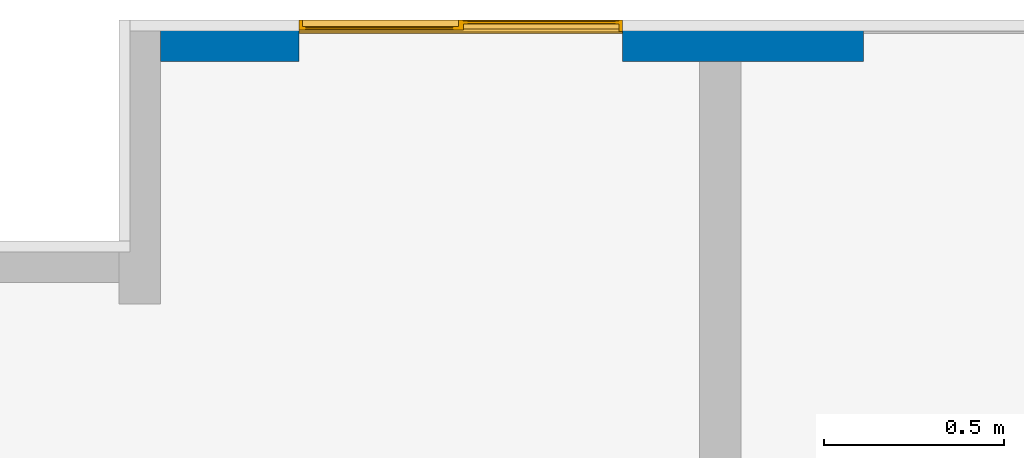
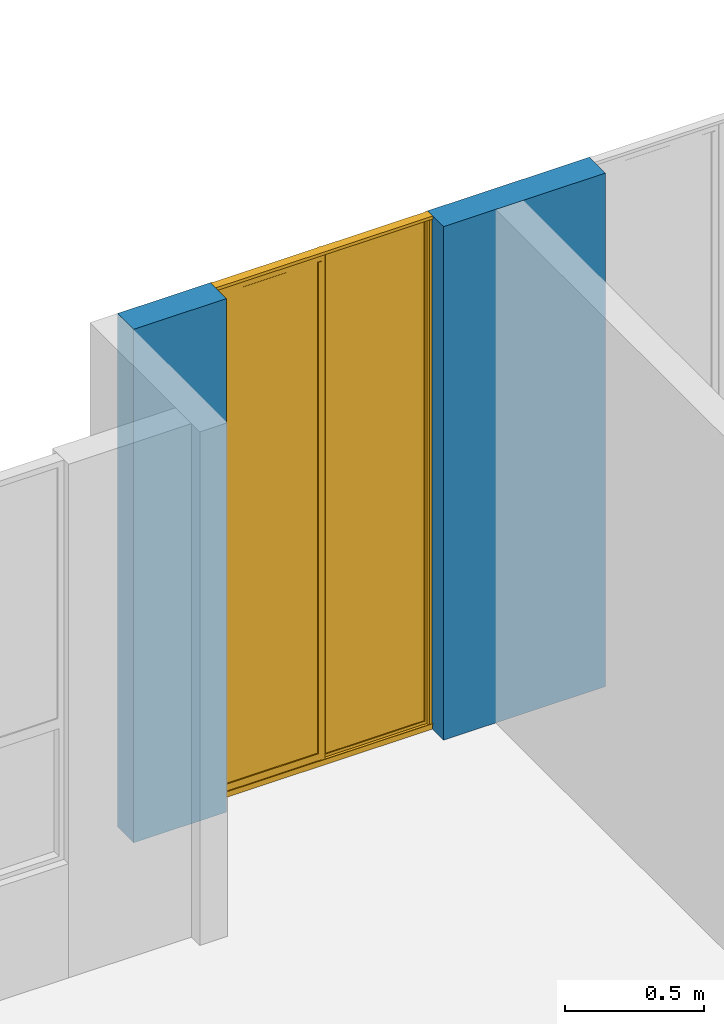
# One storey, part 24 of 48: 1 wall, 1 window, 2 openings.
"""IFC4 building model written with IfcOpenShell, lengths in metres."""

from ifc_helpers import new_model, entity, si_unit, converted_unit, derived_unit, direction, frame, origin, place, context, subcontext, project, spatial, indexed_curve, outline, extrude, polygons, source, transform, mapped, material, constituent, constituent_set, type_object, type_shapes, element, fill, save


model = new_model("IFC4")

# Units and contexts
model_context = context("Model", 3, precision=1e-05, world=origin(), true_north=direction((6.123031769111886e-17, 1.0)))
body_context = subcontext(model_context, "Body", "Model", "MODEL_VIEW")
ifc_project = project(units=[si_unit("LENGTHUNIT", "METRE"), si_unit("AREAUNIT", "SQUARE_METRE"), si_unit("VOLUMEUNIT", "CUBIC_METRE"), converted_unit("PLANEANGLEUNIT", "DEGREE", entity("IfcRatioMeasure", 0.017453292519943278), si_unit("PLANEANGLEUNIT", "RADIAN"), dimensions=[0, 0, 0, 0, 0, 0, 0]), si_unit("MASSUNIT", "GRAM", prefix="KILO"), derived_unit("MASSDENSITYUNIT", [(si_unit("MASSUNIT", "GRAM", prefix="KILO"), 1), (si_unit("LENGTHUNIT", "METRE"), -3)]), derived_unit("IONCONCENTRATIONUNIT", [(si_unit("MASSUNIT", "GRAM", prefix="KILO"), 1), (si_unit("LENGTHUNIT", "METRE"), -3)]), derived_unit("MOMENTOFINERTIAUNIT", [(si_unit("LENGTHUNIT", "METRE"), 4)]), si_unit("TIMEUNIT", "SECOND"), si_unit("FREQUENCYUNIT", "HERTZ"), si_unit("THERMODYNAMICTEMPERATUREUNIT", "DEGREE_CELSIUS"), derived_unit("THERMALTRANSMITTANCEUNIT", [(si_unit("MASSUNIT", "GRAM", prefix="KILO"), 1), (si_unit("THERMODYNAMICTEMPERATUREUNIT", "KELVIN"), -1), (si_unit("TIMEUNIT", "SECOND"), -3)]), derived_unit("THERMALCONDUCTANCEUNIT", [(si_unit("MASSUNIT", "GRAM", prefix="KILO"), 1), (si_unit("THERMODYNAMICTEMPERATUREUNIT", "KELVIN"), -1), (si_unit("TIMEUNIT", "SECOND"), -3), (si_unit("LENGTHUNIT", "METRE"), 1)]), derived_unit("VOLUMETRICFLOWRATEUNIT", [(si_unit("LENGTHUNIT", "METRE"), 3), (si_unit("TIMEUNIT", "SECOND"), -1)]), derived_unit("MASSFLOWRATEUNIT", [(si_unit("MASSUNIT", "GRAM", prefix="KILO"), 1), (si_unit("TIMEUNIT", "SECOND"), -1)]), derived_unit("ROTATIONALFREQUENCYUNIT", [(si_unit("TIMEUNIT", "SECOND"), -1)]), si_unit("ELECTRICCURRENTUNIT", "AMPERE"), si_unit("ELECTRICVOLTAGEUNIT", "VOLT"), si_unit("POWERUNIT", "WATT"), si_unit("FORCEUNIT", "NEWTON", prefix="KILO"), si_unit("ILLUMINANCEUNIT", "LUX"), si_unit("LUMINOUSFLUXUNIT", "LUMEN"), si_unit("LUMINOUSINTENSITYUNIT", "CANDELA"), derived_unit("USERDEFINED", [(si_unit("MASSUNIT", "GRAM", prefix="KILO"), -1), (si_unit("LENGTHUNIT", "METRE"), -2), (si_unit("TIMEUNIT", "SECOND"), 3), (si_unit("LUMINOUSFLUXUNIT", "LUMEN"), 1)]), derived_unit("USERDEFINED", [(si_unit("MASSUNIT", "GRAM", prefix="KILO"), 1), (si_unit("TIMEUNIT", "SECOND"), -3), (si_unit("LENGTHUNIT", "METRE"), 3), (si_unit("ELECTRICCURRENTUNIT", "AMPERE"), -2)]), derived_unit("SOUNDPOWERUNIT", [(si_unit("MASSUNIT", "GRAM", prefix="KILO"), 1), (si_unit("TIMEUNIT", "SECOND"), -3), (si_unit("LENGTHUNIT", "METRE"), 2)]), derived_unit("SOUNDPRESSUREUNIT", [(si_unit("MASSUNIT", "GRAM", prefix="KILO"), 1), (si_unit("LENGTHUNIT", "METRE"), -1), (si_unit("TIMEUNIT", "SECOND"), -2)]), derived_unit("LINEARVELOCITYUNIT", [(si_unit("LENGTHUNIT", "METRE"), 1), (si_unit("TIMEUNIT", "SECOND"), -1)]), si_unit("PRESSUREUNIT", "PASCAL"), derived_unit("USERDEFINED", [(si_unit("MASSUNIT", "GRAM", prefix="KILO"), 1), (si_unit("LENGTHUNIT", "METRE"), -2), (si_unit("TIMEUNIT", "SECOND"), -2)]), derived_unit("LINEARFORCEUNIT", [(si_unit("MASSUNIT", "GRAM", prefix="KILO"), 1), (si_unit("TIMEUNIT", "SECOND"), -2)]), derived_unit("PLANARFORCEUNIT", [(si_unit("MASSUNIT", "GRAM", prefix="KILO"), 1), (si_unit("LENGTHUNIT", "METRE"), -1), (si_unit("TIMEUNIT", "SECOND"), -2)]), derived_unit("SPECIFICHEATCAPACITYUNIT", [(si_unit("THERMODYNAMICTEMPERATUREUNIT", "KELVIN"), -1), (si_unit("LENGTHUNIT", "METRE"), 2), (si_unit("TIMEUNIT", "SECOND"), -2)]), derived_unit("HEATINGVALUEUNIT", [(si_unit("LENGTHUNIT", "METRE"), 2), (si_unit("TIMEUNIT", "SECOND"), -2)]), derived_unit("VAPORPERMEABILITYUNIT", [(si_unit("LENGTHUNIT", "METRE"), -1), (si_unit("TIMEUNIT", "SECOND"), 1)]), derived_unit("DYNAMICVISCOSITYUNIT", [(si_unit("MASSUNIT", "GRAM", prefix="KILO"), 1), (si_unit("TIMEUNIT", "SECOND"), -1), (si_unit("LENGTHUNIT", "METRE"), -1)]), derived_unit("THERMALEXPANSIONCOEFFICIENTUNIT", [(si_unit("THERMODYNAMICTEMPERATUREUNIT", "KELVIN"), -1)]), derived_unit("MODULUSOFELASTICITYUNIT", [(si_unit("MASSUNIT", "GRAM", prefix="KILO"), 1), (si_unit("LENGTHUNIT", "METRE"), -1), (si_unit("TIMEUNIT", "SECOND"), -2)]), derived_unit("ISOTHERMALMOISTURECAPACITYUNIT", [(si_unit("LENGTHUNIT", "METRE"), 3), (si_unit("MASSUNIT", "GRAM", prefix="KILO"), -1)]), derived_unit("MOISTUREDIFFUSIVITYUNIT", [(si_unit("TIMEUNIT", "SECOND"), -1), (si_unit("LENGTHUNIT", "METRE"), 2)])], contexts=[model_context])

# Site, building, storey
site_placement = place(None, origin())
site = spatial("IfcSite", under=ifc_project, at=site_placement, Name="Default", CompositionType="ELEMENT")
building_placement = place(site_placement, origin())
building = spatial("IfcBuilding", under=site, at=building_placement, CompositionType="ELEMENT")
storey_placement = place(building_placement, frame((0.0, 0.0, 7.050000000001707)))
storey = spatial("IfcBuildingStorey", under=building, at=storey_placement, Name="Nivel 4", CompositionType="ELEMENT", Elevation=7.050000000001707)

# Wall, openings, window
ifc_material_1 = material(Name="Ladrillo claro (Aire)", Category="Materials")
wall_type = type_object("IfcWallType", Name="Basic Wall:B2010 - 0.115m - Muro exterior en mampostería - Ladrillo", PredefinedType="STANDARD")
wall_placement = place(storey_placement, frame((12.577500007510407, -0.03750002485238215, 0.0)))
wall = element("IfcWall", 1, at=wall_placement, inside=storey, type_object=wall_type, material=ifc_material_1, Name="Basic Wall:B2010 - 0.115m - Muro exterior en mampostería - Ladrillo", ObjectType="Basic Wall:B2010 - 0.115m - Muro exterior en mampostería - Ladrillo", PredefinedType="NOTDEFINED", context=body_context, shape_type="Tessellation", body=[
    polygons([(1.1388049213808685e-15, -0.05749999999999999, 2.2500000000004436), (1.1388049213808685e-15, -0.05749999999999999, -1.0828671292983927e-15), (0.38500000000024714, -0.0575, -1.0828671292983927e-15), (0.38500000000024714, -0.0575, 2.2500000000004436), (-2.3974804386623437e-16, 0.0575, -1.0828671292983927e-15), (0.3850000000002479, 0.0575, -1.0828671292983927e-15), (-2.3974804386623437e-16, 0.0575, 2.2500000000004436), (0.3850000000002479, 0.05750000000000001, 2.2500000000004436)], [[[1, 2, 3, 4]], [[2, 5, 6, 3]], [[2, 1, 7, 5]], [[4, 3, 6, 8]], [[7, 1, 4, 8]], [[5, 7, 8, 6]]], closed=True),
    polygons([(1.2850000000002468, 0.0575, -1.0828671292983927e-15), (1.2850000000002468, 0.05749999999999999, 2.2500000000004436), (1.9557999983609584, 0.05749999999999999, 2.2500000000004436), (1.9557999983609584, 0.0575, -1.0828671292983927e-15), (1.285000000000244, -0.05749999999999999, 2.2500000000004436), (1.499999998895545, -0.05749999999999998, 2.2500000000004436), (1.6149999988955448, -0.05749999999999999, 2.2500000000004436), (1.9557999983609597, -0.05749999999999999, 2.2500000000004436), (1.9557999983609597, -0.05749999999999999, -1.0828671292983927e-15), (1.285000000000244, -0.05749999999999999, -1.0828671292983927e-15), (1.6149999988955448, -0.05749999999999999, 0.0), (1.499999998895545, -0.05749999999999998, 0.0)], [[[1, 2, 3, 4]], [[2, 5, 6, 7, 8, 3]], [[8, 9, 4, 3]], [[10, 5, 2, 1]], [[10, 1, 4, 9, 11, 12]], [[5, 10, 12, 11, 9, 8, 7, 6]]], closed=True),
])
opening_1_placement = place(wall_placement, frame((1.2850000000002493, 0.057499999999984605, 0.0)))
opening_1 = element("IfcOpeningElement", 2, at=opening_1_placement, cuts=wall, Name="B2020 - Ventana corrediza 2C - Aluminio + Vidrio:B2020 - 0.90m x 2.25m - Ventana corrediza 2C - Aluminio + Vidrio:1", PredefinedType="OPENING", context=body_context, shape_type="SweptSolid", body=[
    extrude(outline(indexed_curve([(0.0, -1.3535839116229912e-16), (2.2499999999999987, -1.3535839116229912e-16), (2.249999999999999, 0.8999999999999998), (0.0, 0.8999999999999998), (0.0, -1.3535839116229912e-16)], self_intersect=False)), frame((0.0, 0.0, 0.0), z_axis=(0.0, -1.0, 0.0), x_axis=(0.0, 0.0, 1.0)), (0.0, 0.0, 1.0), 0.115),
])
opening_2_placement = place(wall_placement, frame((2.9757999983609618, 0.05749999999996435, 0.0)))
element("IfcOpeningElement", 3, at=opening_2_placement, cuts=wall, Name="B2020 - Ventana corrediza 2C - Aluminio + Vidrio:B2020 - 1.02m x 2.25m - Ventana corrediza 2C - Aluminio + Vidrio:1", PredefinedType="OPENING", context=body_context, shape_type="SweptSolid", body=[
    extrude(outline(indexed_curve([(0.0, -3.129589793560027e-32), (2.2499999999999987, -3.129589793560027e-32), (2.249999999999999, 1.0199999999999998), (0.0, 1.0199999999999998), (0.0, -3.129589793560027e-32)], self_intersect=False)), frame((0.0, 0.0, 0.0), z_axis=(0.0, -1.0, 0.0), x_axis=(0.0, 0.0, 1.0)), (0.0, 0.0, 1.0), 0.115),
])
ifc_material_2 = material(Name="Vidrio", Category="Materials")
ifc_constituent_1 = constituent(ifc_material_2, Name="Vidrio", Category="Materials")
ifc_material_3 = material(Name="<Unnamed>")
ifc_constituent_2 = constituent(ifc_material_3, Name="<Unnamed>")
ifc_constituent_set_1 = constituent_set(constituents=[ifc_constituent_1, ifc_constituent_2])
ifc_constituent_3 = constituent(ifc_material_2, Name="Vidrio", Category="Materials")
ifc_constituent_4 = constituent(ifc_material_3, Name="<Unnamed>")
ifc_constituent_set_2 = constituent_set(constituents=[ifc_constituent_3, ifc_constituent_4])
window_type = type_object("IfcWindowType", Name="B2020 - Ventana corrediza 2C - Aluminio + Vidrio:B2020 - 0.90m x 2.25m - Ventana corrediza 2C - Aluminio + Vidrio", PartitioningType="NOTDEFINED", PredefinedType="WINDOW", material=ifc_constituent_set_2)
shared_shape = source(origin(), body_context, "Body", "Tessellation", [
    polygons([(0.4701871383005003, 0.11311505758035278, 0.028641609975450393), (0.8800323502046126, 0.11311505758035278, 0.028641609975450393), (0.8800323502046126, 0.10801372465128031, 0.028641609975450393), (0.4701871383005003, 0.10801372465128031, 0.028641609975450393), (0.4701871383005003, 0.11311505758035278, 2.2347073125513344), (0.4701871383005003, 0.10801372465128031, 2.2347073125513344), (0.8800323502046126, 0.10801372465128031, 2.2347073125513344), (0.8800323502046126, 0.11311505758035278, 2.2347073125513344)], [[[1, 2, 3, 4]], [[5, 1, 4, 6]], [[6, 4, 3, 7]], [[7, 3, 2, 8]], [[8, 2, 1, 5]], [[5, 6, 7, 8]]], closed=True),
    polygons([(0.01884633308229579, 0.0962952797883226, 0.054189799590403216), (0.4282710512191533, 0.0962952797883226, 0.054189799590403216), (0.4282710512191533, 0.09199928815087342, 0.054189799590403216), (0.01884633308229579, 0.09199928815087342, 0.054189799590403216), (0.01884633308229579, 0.0962952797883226, 2.2043993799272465), (0.01884633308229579, 0.09199928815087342, 2.2043993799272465), (0.4282710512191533, 0.09199928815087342, 2.2043993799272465), (0.4282710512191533, 0.0962952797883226, 2.2043993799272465)], [[[1, 2, 3, 4]], [[5, 1, 4, 6]], [[6, 4, 3, 7]], [[7, 3, 2, 8]], [[8, 2, 1, 5]], [[5, 6, 7, 8]]], closed=True),
    polygons([(1.610764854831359e-14, 0.08248628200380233, 0.020380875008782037), (1.610764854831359e-14, 0.07981389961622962, 0.020380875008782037), (1.610764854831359e-14, 0.07981389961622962, 0.025674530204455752), (1.610764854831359e-14, 0.08106389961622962, 0.025674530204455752), (1.610764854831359e-14, 0.08106389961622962, 0.02163087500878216), (1.610764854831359e-14, 0.08373628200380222, 0.02163087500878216), (1.610764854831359e-14, 0.08373628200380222, 0.017447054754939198), (1.610764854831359e-14, 0.08932238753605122, 0.017447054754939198), (1.610764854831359e-14, 0.08932238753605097, 2.24863686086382), (1.5972290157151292e-14, 0.0810593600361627, 2.24863686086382), (1.5972290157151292e-14, 0.0810593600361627, 2.2365872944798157), (1.5972290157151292e-14, 0.07969622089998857, 2.2365872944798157), (1.5972290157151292e-14, 0.07969622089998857, 2.2499999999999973), (1.610764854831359e-14, 0.11748628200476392, 2.2499999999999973), (1.5972290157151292e-14, 0.1174862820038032, -2.5718094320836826e-15), (1.610764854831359e-14, 0.08248628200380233, -2.5718094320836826e-15), (0.900000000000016, 0.08248628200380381, 0.020380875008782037), (0.900000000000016, 0.08248628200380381, -2.5718094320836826e-15), (0.900000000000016, 0.11748628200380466, -2.5718094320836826e-15), (0.45664549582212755, 0.11748628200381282, 2.2499999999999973), (0.45664549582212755, 0.11748628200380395, 0.006176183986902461), (0.8900000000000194, 0.11748628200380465, 0.006176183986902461), (0.8900000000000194, 0.11748628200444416, 2.2499999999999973), (0.900000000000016, 0.11748628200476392, 2.2499999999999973), (0.009897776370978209, 0.11748628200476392, 2.2499999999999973), (0.009897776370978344, 0.1174862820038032, 0.006176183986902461), (0.4433545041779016, 0.11748628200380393, 0.006176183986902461), (0.4433545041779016, 0.11748628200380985, 2.2499999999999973), (0.016298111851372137, 0.0893223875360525, 2.2069861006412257), (0.4433545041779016, 0.0893223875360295, 2.2069861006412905), (0.4433545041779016, 0.08932238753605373, 2.2043993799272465), (0.430819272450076, 0.08932238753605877, 2.2043993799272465), (0.4308192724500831, 0.08932238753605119, 0.0519155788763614), (0.01629811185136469, 0.08932238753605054, 0.0519155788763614), (0.016298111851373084, 0.08932238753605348, 2.237270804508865), (0.01629811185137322, 0.08932238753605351, 2.24863686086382), (0.0037628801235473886, 0.08932238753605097, 0.017447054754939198), (0.0037628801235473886, 0.0893223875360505, 0.02163087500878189), (0.4433545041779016, 0.0893223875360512, 0.021630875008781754), (0.4433545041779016, 0.08932238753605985, 0.017447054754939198), (0.4580471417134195, 0.08932238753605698, 0.017447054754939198), (0.4580471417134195, 0.0893223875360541, 2.24863686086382), (0.4433545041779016, 0.08932238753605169, 2.24863686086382), (0.4433545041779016, 0.08932238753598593, 2.237270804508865), (0.900000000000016, 0.08373628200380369, 0.017447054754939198), (0.900000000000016, 0.08548628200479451, 0.017447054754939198), (0.8900000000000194, 0.08548628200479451, 0.017447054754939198), (0.8900000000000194, 0.09284764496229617, 0.017447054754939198), (0.4580471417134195, 0.09284764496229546, 0.017447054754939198), (0.4433545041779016, 0.09284764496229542, 0.017447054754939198), (0.0037628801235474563, 0.09284764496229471, 0.017447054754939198), (0.900000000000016, 0.08373628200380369, 0.02163087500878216), (0.900000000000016, 0.08106389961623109, 0.02163087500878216), (0.900000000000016, 0.08106389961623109, 0.025674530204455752), (0.900000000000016, 0.07981389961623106, 0.025674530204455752), (0.900000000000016, 0.07981389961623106, 0.020380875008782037), (0.01884290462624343, 0.09629339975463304, 0.054191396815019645), (0.4282772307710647, 0.09629080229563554, 0.054191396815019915), (0.4308192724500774, 0.09897218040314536, 0.051915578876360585), (0.016298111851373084, 0.09897218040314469, 0.051915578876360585), (0.01629811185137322, 0.09897218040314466, 2.237270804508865), (0.01629811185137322, 0.09897218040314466, 2.24863686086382), (0.018846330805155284, 0.0962732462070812, 2.24863686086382), (0.018846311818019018, 0.0962733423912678, 2.237270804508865), (0.430819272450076, 0.09897218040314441, 2.2043993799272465), (0.4433545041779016, 0.09897218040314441, 2.2043993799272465), (0.4433545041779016, 0.09897218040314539, 0.02163087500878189), (0.009897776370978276, 0.09897218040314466, 0.021630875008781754), (0.009897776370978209, 0.09897218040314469, 2.24863686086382), (0.4433545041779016, 0.09897218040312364, 2.237270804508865), (0.4433545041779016, 0.09897218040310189, 2.2069861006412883), (0.01629811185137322, 0.09897218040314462, 2.2069861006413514), (0.4282710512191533, 0.09628602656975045, 2.2043993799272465), (0.01884015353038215, 0.09200376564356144, 0.05419139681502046), (0.42827447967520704, 0.09200116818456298, 0.05419139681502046), (0.018846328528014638, 0.09202132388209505, 2.24863686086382), (0.01884629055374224, 0.09202124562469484, 2.237270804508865), (0.4282710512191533, 0.09200843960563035, 2.204399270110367), (0.4580471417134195, 0.09284764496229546, 0.011279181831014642), (0.4580471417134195, 0.09612320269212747, 0.010600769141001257), (0.4580471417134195, 0.09612320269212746, 0.014402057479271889), (0.4580471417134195, 0.10582811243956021, 0.014402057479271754), (0.4580471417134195, 0.1058281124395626, 2.24863686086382), (0.4433545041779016, 0.09199945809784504, 2.204399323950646), (0.0037628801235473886, 0.09897218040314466, 0.02163087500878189), (0.0037628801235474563, 0.09284764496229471, 0.011279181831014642), (0.0037628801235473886, 0.09897218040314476, 0.010010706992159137), (0.009897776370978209, 0.09897218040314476, 0.010010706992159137), (0.009897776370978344, 0.1153006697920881, 2.2499999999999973), (0.009897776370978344, 0.11530066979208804, 2.2369062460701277), (0.009897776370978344, 0.11310173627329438, 2.234707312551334), (0.009897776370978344, 0.1080270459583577, 2.234707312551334), (0.009897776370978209, 0.10582811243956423, 2.2369062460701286), (0.009897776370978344, 0.10582811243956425, 2.24863686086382), (0.900000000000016, 0.07969622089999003, 2.2499999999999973), (0.900000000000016, 0.07969622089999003, 2.2365872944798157), (0.900000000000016, 0.08105936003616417, 2.2365872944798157), (0.900000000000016, 0.08105936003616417, 2.24863686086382), (0.900000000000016, 0.08548628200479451, 2.24863686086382), (0.8900000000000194, 0.08548628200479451, 2.24863686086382), (0.8900000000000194, 0.09284764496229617, 0.011279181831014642), (0.8900000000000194, 0.10582811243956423, 2.24863686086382), (0.8900000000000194, 0.10582811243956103, 0.014402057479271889), (0.8900000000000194, 0.09612320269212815, 0.014402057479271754), (0.8900000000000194, 0.09612320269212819, 0.010600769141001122), (0.45664549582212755, 0.1153006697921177, 0.006628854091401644), (0.45664549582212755, 0.11530066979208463, 2.2499999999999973), (0.8900000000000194, 0.11530066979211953, 0.0066288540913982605), (0.8900000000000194, 0.11530066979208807, 2.2499999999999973), (0.4433545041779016, 0.11530066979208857, 2.2499999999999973), (0.4433545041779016, 0.1153006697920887, 2.2369062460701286), (0.4676389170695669, 0.11530066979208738, 0.026824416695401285), (0.46763891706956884, 0.11530066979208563, 2.236906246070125), (0.4701871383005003, 0.1131150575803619, 2.234713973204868), (0.4701871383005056, 0.11311505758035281, 0.028641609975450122), (0.8800323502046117, 0.11311505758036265, 0.028641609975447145), (0.8800323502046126, 0.11311505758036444, 2.2347139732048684), (0.8825805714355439, 0.11530066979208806, 2.236906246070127), (0.8825805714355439, 0.1153006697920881, 0.026824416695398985), (0.8800323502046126, 0.10801372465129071, 0.02864160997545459), (0.47018713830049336, 0.10801372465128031, 0.028641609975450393), (0.46763891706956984, 0.10582811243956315, 0.02682441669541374), (0.8825805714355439, 0.10582811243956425, 0.026824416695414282), (0.46763891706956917, 0.10582811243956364, 2.2369062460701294), (0.8825805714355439, 0.10582811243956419, 2.2369062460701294), (0.8800311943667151, 0.108016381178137, 2.2347113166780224), (0.47018829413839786, 0.10801638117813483, 2.234711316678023), (0.4433545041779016, 0.09629516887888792, 2.204399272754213), (0.018846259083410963, 0.09627365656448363, 2.204388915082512), (0.018844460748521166, 0.09201660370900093, 2.2043931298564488), (0.4433545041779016, 0.10582811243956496, 2.24863686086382), (0.4433545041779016, 0.10802704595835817, 2.2347073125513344), (0.4433545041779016, 0.10582811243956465, 2.2369062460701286), (0.4433545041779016, 0.11310173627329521, 2.2347073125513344), (0.4433545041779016, 0.09284764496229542, 0.011279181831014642)], [[[1, 2, 3, 4, 5, 6, 7, 8, 9, 10, 11, 12, 13, 14, 15, 16]], [[17, 1, 16, 18]], [[16, 15, 19, 18]], [[20, 21, 22, 23, 24, 19, 15, 14, 25, 26, 27, 28]], [[35, 36, 9, 8, 37, 38, 39, 40, 41, 42, 43, 44], [29, 30, 31, 32, 33, 34]], [[45, 46, 47, 48, 49, 41, 40, 50, 51, 37, 8, 7]], [[45, 7, 6, 52]], [[52, 6, 5, 53]], [[53, 5, 4, 54]], [[54, 4, 3, 55]], [[55, 3, 2, 56]], [[56, 2, 1, 17]], [[57, 58, 59, 60]], [[61, 62, 63, 64]], [[60, 59, 65, 66, 67, 68, 69, 62, 61, 70, 71, 72]], [[65, 59, 58, 73]], [[74, 75, 58, 57]], [[64, 63, 76, 77]], [[58, 75, 78, 73]], [[34, 33, 75, 74]], [[77, 76, 36, 35]], [[78, 75, 33, 32]], [[49, 79, 80, 81, 82, 83, 42, 41]], [[84, 31, 30]], [[39, 38, 85, 68, 67]], [[85, 38, 37, 51, 86, 87]], [[68, 85, 87, 88]], [[25, 89, 90, 91, 92, 93, 94, 69, 68, 88, 26]], [[17, 18, 19, 24, 95, 96, 97, 98, 99, 46, 45, 52, 53, 54, 55, 56]], [[46, 99, 100, 47]], [[49, 48, 101, 79]], [[47, 100, 102, 103, 104, 105, 101, 48]], [[79, 101, 105, 80]], [[106, 21, 20, 107]], [[23, 22, 108, 109]], [[110, 111, 90, 89]], [[80, 105, 104, 81]], [[112, 113, 114, 115]], [[116, 117, 118, 119]], [[119, 112, 115, 116]], [[120, 121, 122, 123]], [[103, 102, 83, 82], [122, 124, 125, 123]], [[123, 125, 126, 120]], [[121, 127, 124, 122]], [[81, 104, 103, 82]], [[120, 126, 117, 116]], [[116, 115, 121, 120]], [[115, 114, 127, 121]], [[13, 95, 24, 23, 109, 107, 20, 28, 110, 89, 25, 14]], [[72, 71, 128, 73, 129]], [[129, 73, 78, 130]], [[130, 78, 84, 30, 29]], [[77, 35, 44, 70, 61, 64]], [[31, 84, 78, 32]], [[97, 11, 10, 98]], [[96, 12, 11, 97]], [[95, 13, 12, 96]], [[118, 117, 114, 113]], [[127, 114, 117, 126]], [[124, 127, 126, 125]], [[10, 9, 36, 76, 63, 62, 69, 94, 131, 43, 42, 83, 102, 100, 99, 98]], [[132, 133, 93, 92]], [[134, 132, 92, 91]], [[111, 134, 91, 90]], [[73, 128, 66, 65]], [[133, 131, 94, 93]], [[109, 108, 106, 107], [112, 119, 118, 113]], [[106, 108, 22, 21]], [[27, 26, 88, 87, 86, 135]], [[135, 86, 51, 50]], [[27, 135, 50, 40, 39, 67, 66, 128, 71, 70, 44, 43, 131, 133, 132, 134, 111, 110, 28]], [[74, 130, 29, 34]], [[57, 129, 130, 74]], [[60, 72, 129, 57]]], closed=True),
])
type_shapes(window_type, [shared_shape])
window_placement = place(opening_1_placement, frame((-0.9000000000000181, -0.11748628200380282, 0.0)))
window = element("IfcWindow", 4, at=window_placement, inside=storey, type_object=window_type, material=ifc_constituent_set_1, Name="B2020 - Ventana corrediza 2C - Aluminio + Vidrio:B2020 - 0.90m x 2.25m - Ventana corrediza 2C - Aluminio + Vidrio", ObjectType="B2020 - Ventana corrediza 2C - Aluminio + Vidrio:B2020 - 0.90m x 2.25m - Ventana corrediza 2C - Aluminio + Vidrio", OverallHeight=2.2499999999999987, OverallWidth=0.899999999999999, PartitioningType="NOTDEFINED", PredefinedType="WINDOW", context=body_context, shape_type="MappedRepresentation", body=[
    mapped(shared_shape, transform((0.0, 0.0, 0.0), scale=1.0)),
])
fill(opening_1, window)

save(model, "model.ifc")
